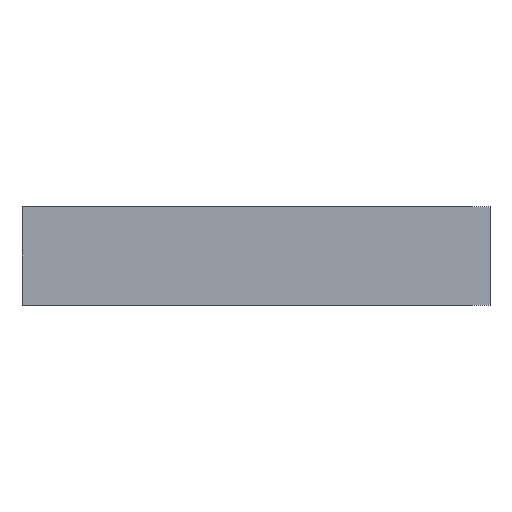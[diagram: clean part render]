
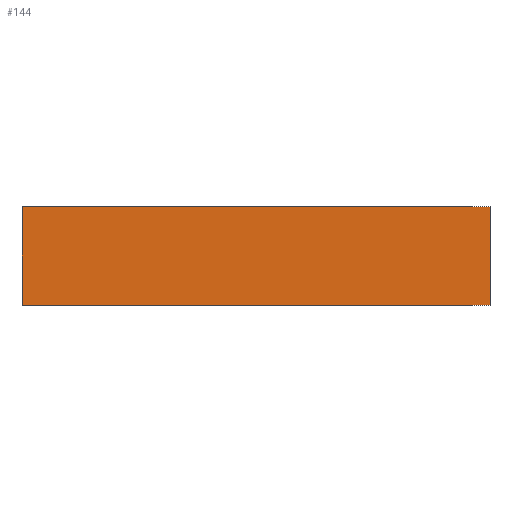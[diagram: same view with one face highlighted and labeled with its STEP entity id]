
A CAD part, front view. The second image highlights one B-rep face of the part: STEP entity #144.
In plain terms, the highlighted planar face has unit normal (0, -1, 0).
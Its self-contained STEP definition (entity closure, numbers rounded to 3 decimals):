
#35 = VECTOR ( 'NONE', #295, 1000. ) ;
#37 = LINE ( 'NONE', #296, #35 ) ;
#54 = VECTOR ( 'NONE', #328, 1000. ) ;
#55 = LINE ( 'NONE', #329, #54 ) ;
#66 = VECTOR ( 'NONE', #282, 1000. ) ;
#68 = LINE ( 'NONE', #287, #66 ) ;
#97 = VECTOR ( 'NONE', #325, 1000. ) ;
#98 = LINE ( 'NONE', #326, #97 ) ;
#144 = ADVANCED_FACE ( 'NONE', ( #692 ), #423, .F. ) ;
#160 = VERTEX_POINT ( 'NONE', #568 ) ;
#163 = VERTEX_POINT ( 'NONE', #566 ) ;
#182 = VERTEX_POINT ( 'NONE', #549 ) ;
#183 = VERTEX_POINT ( 'NONE', #548 ) ;
#282 = DIRECTION ( 'NONE',  ( 1., 0., 0. ) ) ;
#287 = CARTESIAN_POINT ( 'NONE',  ( -154., 0., 0. ) ) ;
#295 = DIRECTION ( 'NONE',  ( 0., 0., -1. ) ) ;
#296 = CARTESIAN_POINT ( 'NONE',  ( -154., 0., 65. ) ) ;
#325 = DIRECTION ( 'NONE',  ( 1., 0., 0. ) ) ;
#326 = CARTESIAN_POINT ( 'NONE',  ( -154., 0., 65. ) ) ;
#328 = DIRECTION ( 'NONE',  ( 0., 0., -1. ) ) ;
#329 = CARTESIAN_POINT ( 'NONE',  ( 154., 0., 65. ) ) ;
#370 = EDGE_CURVE ( 'NONE', #183, #182, #98, .T. ) ;
#381 = EDGE_CURVE ( 'NONE', #160, #163, #68, .T. ) ;
#387 = EDGE_CURVE ( 'NONE', #182, #163, #55, .T. ) ;
#396 = EDGE_CURVE ( 'NONE', #183, #160, #37, .T. ) ;
#423 = PLANE ( 'NONE',  #899 ) ;
#548 = CARTESIAN_POINT ( 'NONE',  ( -154., 0., 65. ) ) ;
#549 = CARTESIAN_POINT ( 'NONE',  ( 154., 0., 65. ) ) ;
#566 = CARTESIAN_POINT ( 'NONE',  ( 154., 0., 0. ) ) ;
#568 = CARTESIAN_POINT ( 'NONE',  ( -154., 0., 0. ) ) ;
#629 = DIRECTION ( 'NONE',  ( -1., 0., 0. ) ) ;
#630 = DIRECTION ( 'NONE',  ( 0., 1., 0. ) ) ;
#636 = CARTESIAN_POINT ( 'NONE',  ( -154., 0., 65. ) ) ;
#692 = FACE_OUTER_BOUND ( 'NONE', #867, .T. ) ;
#719 = ORIENTED_EDGE ( 'NONE', *, *, #396, .T. ) ;
#720 = ORIENTED_EDGE ( 'NONE', *, *, #370, .F. ) ;
#721 = ORIENTED_EDGE ( 'NONE', *, *, #387, .F. ) ;
#722 = ORIENTED_EDGE ( 'NONE', *, *, #381, .T. ) ;
#867 = EDGE_LOOP ( 'NONE', ( #722, #721, #720, #719 ) ) ;
#899 = AXIS2_PLACEMENT_3D ( 'NONE', #636, #630, #629 ) ;
